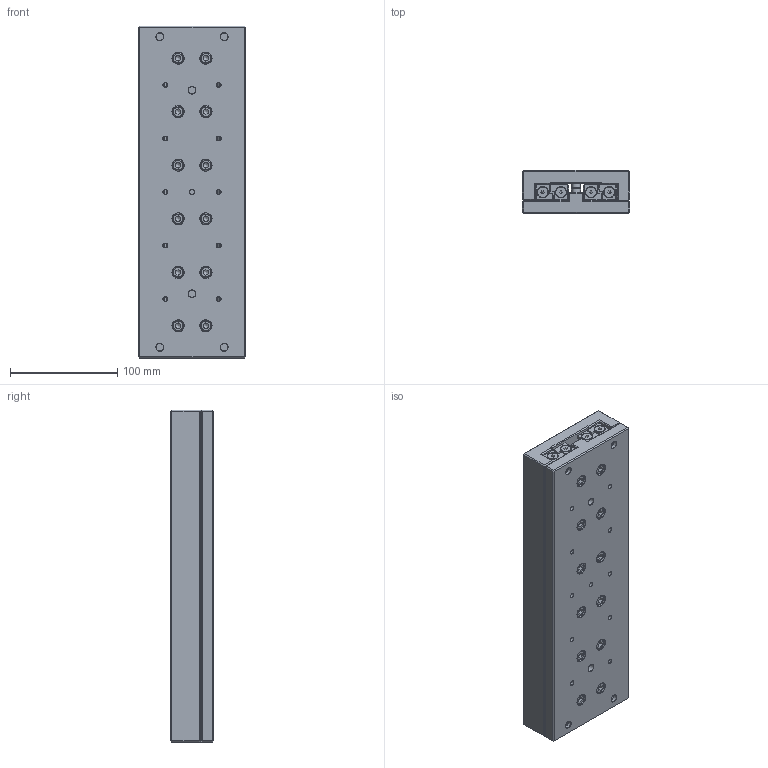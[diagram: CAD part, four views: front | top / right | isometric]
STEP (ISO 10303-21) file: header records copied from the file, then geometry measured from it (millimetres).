
FILE_DESCRIPTION(/* description */ ('Tavola TRL06 L=310 mm'),/* implementation_level */ '2;1');
FILE_NAME(/* name */ 'TRL060310-00.stp',/* time_stamp */ '2024-02-07T09:00:12+01:00',/* author */ ('Rosa sistemi'),/* organization */ (''),/* preprocessor_version */ 'ST-DEVELOPER v20',/* originating_system */ 'Autodesk Inventor 2024',/* authorisation */ '');
FILE_SCHEMA (('AUTOMOTIVE_DESIGN { 1 0 10303 214 3 1 1 }'));
Products named in the file (2): TRL060310-00; TRL060310-00_1
Assembly tree (1 placements, depth 2):
  TRL060310-00
    TRL060310-00_1
Bounding box: 100 x 40 x 310 mm (x, y, z)
Volume: 1112429.9 mm3; surface area: 229340.4 mm2
Topology: 12 solids, 12 shells, 1909 faces, 5023 edges, 3272 vertices
Faces by surface type: plane 1202, cylinder 257, cone 207, bspline 196, torus 47
Full cylindrical faces by diameter (mm): 1.548 x5, 4.134 x35, 4.256 x5, 6 x28, 7 x6, 8.5 x3, 9.5 x24, 9.64 x8, 10 x24, 11 x30
Entity records: 60588 total; most frequent: CARTESIAN_POINT 13376, ORIENTED_EDGE 9964, DIRECTION 8796, EDGE_CURVE 4982, VERTEX_POINT 3272, LINE 3154, VECTOR 3154, AXIS2_PLACEMENT_3D 2821
